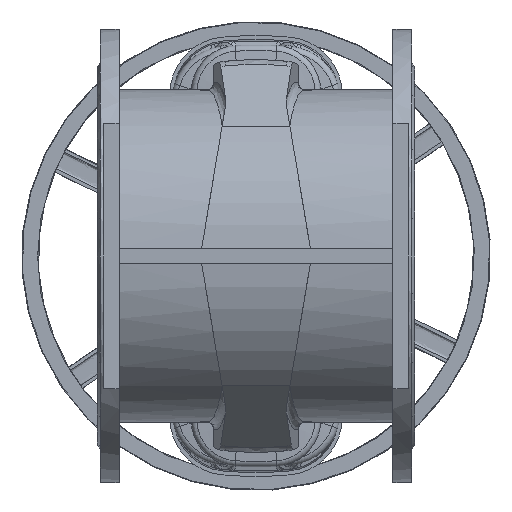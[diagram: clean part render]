
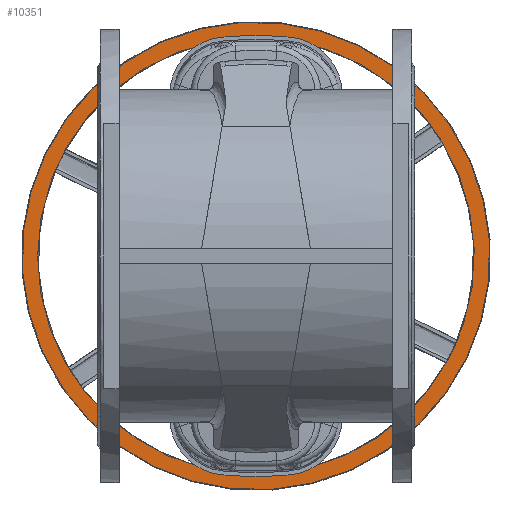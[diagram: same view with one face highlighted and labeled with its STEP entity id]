
A CAD part, front view. The second image highlights one B-rep face of the part: STEP entity #10351.
In plain terms, the highlighted planar face has unit normal (0, -1, 0).
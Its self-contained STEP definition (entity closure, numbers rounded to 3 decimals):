
#10014 = CARTESIAN_POINT ( 'NONE',  ( 265.297, 1236., -129.27 ) ) ;
#10016 = PLANE ( 'NONE',  #13565 ) ;
#10018 = DIRECTION ( 'NONE',  ( 0., 1., 0. ) ) ;
#10019 = DIRECTION ( 'NONE',  ( -0.899, 0., 0.438 ) ) ;
#10351 = ADVANCED_FACE ( 'NONE', ( #14957, #14961 ), #10016, .F. ) ;
#13565 = AXIS2_PLACEMENT_3D ( 'NONE', #10014, #10018, #10019 ) ;
#14957 = FACE_OUTER_BOUND ( 'NONE', #28087, .T. ) ;
#14961 = FACE_BOUND ( 'NONE', #28090, .T. ) ;
#15385 = CIRCLE ( 'NONE', #36547, 279.221 ) ;
#15390 = CIRCLE ( 'NONE', #36548, 299.116 ) ;
#25754 = VERTEX_POINT ( 'NONE', #45047 ) ;
#25756 = VERTEX_POINT ( 'NONE', #45048 ) ;
#28087 = EDGE_LOOP ( 'NONE', ( #28746 ) ) ;
#28090 = EDGE_LOOP ( 'NONE', ( #28747 ) ) ;
#28746 = ORIENTED_EDGE ( 'NONE', *, *, #38823, .F. ) ;
#28747 = ORIENTED_EDGE ( 'NONE', *, *, #38822, .F. ) ;
#36547 = AXIS2_PLACEMENT_3D ( 'NONE', #44026, #44027, #44028 ) ;
#36548 = AXIS2_PLACEMENT_3D ( 'NONE', #44029, #44030, #44031 ) ;
#38822 = EDGE_CURVE ( 'NONE', #25754, #25754, #15385, .T. ) ;
#38823 = EDGE_CURVE ( 'NONE', #25756, #25756, #15390, .T. ) ;
#44026 = CARTESIAN_POINT ( 'NONE',  ( 0., 1236., 0. ) ) ;
#44027 = DIRECTION ( 'NONE',  ( 0., -1., 0. ) ) ;
#44028 = DIRECTION ( 'NONE',  ( -1., 0., 0. ) ) ;
#44029 = CARTESIAN_POINT ( 'NONE',  ( 0., 1236., 0. ) ) ;
#44030 = DIRECTION ( 'NONE',  ( 0., 1., 0. ) ) ;
#44031 = DIRECTION ( 'NONE',  ( -0.899, 0., 0.438 ) ) ;
#45047 = CARTESIAN_POINT ( 'NONE',  ( -279.221, 1236., 0. ) ) ;
#45048 = CARTESIAN_POINT ( 'NONE',  ( -268.893, 1236., 131.022 ) ) ;
